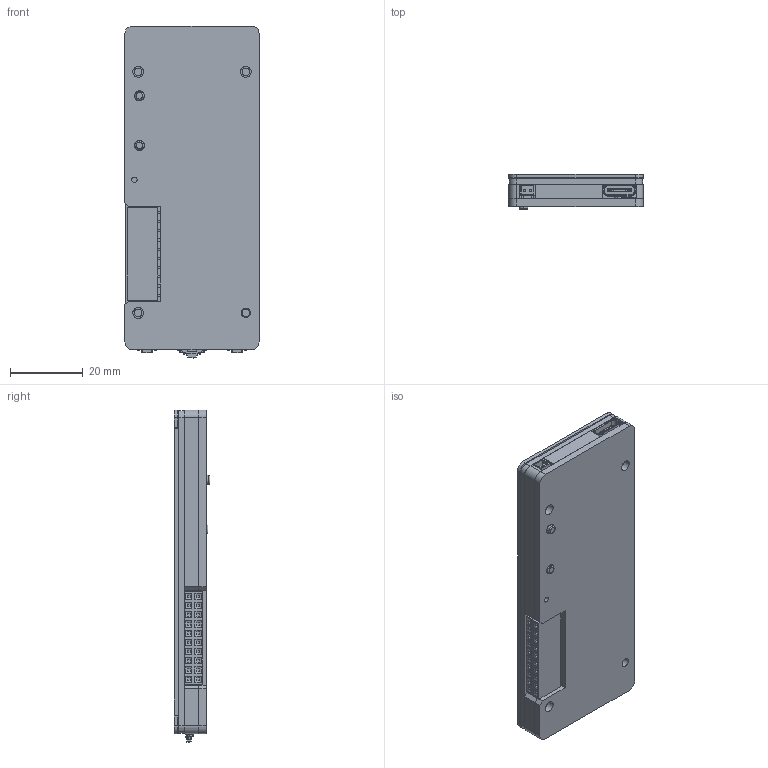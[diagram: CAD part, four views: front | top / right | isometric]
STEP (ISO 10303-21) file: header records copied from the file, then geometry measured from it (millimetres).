
FILE_DESCRIPTION((''),'2;1');
FILE_NAME('00-2-9_VIEW_ASM','2024-11-18T17:21:30',('DNZJ-104'),(''),'CREO PARAMETRIC BY PTC INC, 2022164','CREO PARAMETRIC BY PTC INC, 2022164','');
FILE_SCHEMA(('CONFIG_CONTROL_DESIGN'));
Products named in the file (58): 2_9-LCD; 2_9-LCD-B; 3_7_PCB; XB-TM-2024A; BREP_61; BREP_62; BREP_63; KEY-579_ASM; TF; BREP_71; BOSS-EXTRUDE7_4__1_1; BOSS-EXTRUDE7_5__1_1; BOSS-EXTRUDE7_8__1_1; BOSS-EXTRUDE7_3__1_1; BOSS-EXTRUDE7_7__1_1; BOSS-EXTRUDE14_4__1_1; BOSS-EXTRUDE14_2__1_1; BOSS-EXTRUDE14_8__1_1; BOSS-EXTRUDE14_5__1_1; BOSS-EXTRUDE7_6__1_1; CHAMFER9_1_1; CUT-EXTRUDE5_1_1; MIRROR2_1_1; BOSS-EXTRUDE7_1__1_1; BOSS-EXTRUDE14_10__1_1; BOSS-EXTRUDE14_11__1_1; BOSS-EXTRUDE14_9__1_1; BOSS-EXTRUDE14_6__1_1; BOSS-EXTRUDE14_12__1_1; BOSS-EXTRUDE14_3__1_1; BOSS-EXTRUDE14_7__1_1; BOSS-EXTRUDE7_9__1_1; BOSS-EXTRUDE7_2__1_1; NONE_1_1_1; 9899277F-4995-40C0-B099-C6A92_1_ASM; TYPE_C_PORT_SMD_TYPE__ASM_2_1_ASM; BREP_77; BODY1_1_3_1; BODY2_1_1_1; BODY3_1_1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
Assembly tree (62 placements, depth 4):
  00-2-9_VIEW_ASM
    2_9-LCD
    2_9-LCD-B
    3_7_PCB
    XB-TM-2024A
    KEY-579_ASM  x2
      BREP_61
      BREP_62
      BREP_63
    TF
    BREP_71
    TYPE_C_PORT_SMD_TYPE__ASM_2_1_ASM
      9899277F-4995-40C0-B099-C6A92_1_ASM
        BOSS-EXTRUDE7_4__1_1
        BOSS-EXTRUDE7_5__1_1
        BOSS-EXTRUDE7_8__1_1
        BOSS-EXTRUDE7_3__1_1
        BOSS-EXTRUDE7_7__1_1
        BOSS-EXTRUDE14_4__1_1
        BOSS-EXTRUDE14_2__1_1
        BOSS-EXTRUDE14_8__1_1
        BOSS-EXTRUDE14_5__1_1
        BOSS-EXTRUDE7_6__1_1
        CHAMFER9_1_1
        CUT-EXTRUDE5_1_1
        MIRROR2_1_1
        BOSS-EXTRUDE7_1__1_1
        BOSS-EXTRUDE14_10__1_1
        BOSS-EXTRUDE14_11__1_1
        BOSS-EXTRUDE14_9__1_1
        BOSS-EXTRUDE14_6__1_1
        BOSS-EXTRUDE14_12__1_1
        BOSS-EXTRUDE14_3__1_1
        BOSS-EXTRUDE14_7__1_1
        BOSS-EXTRUDE7_9__1_1
        BOSS-EXTRUDE7_2__1_1
        NONE_1_1_1
    BREP_77
    TACT_SWITCH_ASM_2_1_ASM  x2
      BODY1_1_3_1
      BODY2_1_1_1
      BODY3_1_1
      BODY4_1_1
      BODY5_1_1
      BODY6_1_1
      SMT_PIN_2_1_1
      SMT_PIN_4_1_1
      SMT_PIN_1_1_1
      SMT_PIN_3_1_1
    X05A10H24X
    NONE-0531
    M2_5X3_5  x4
    29-MIDDLE-COVER
    29-PCB-CHECK
    29-BOTTOM_COVER
    PLANE-29
    33
    CROWPANEL_ESP32_DISPLAY-2_9_E_I
Bounding box: 37 x 9.8 x 91.59 mm (x, y, z)
Volume: 24513 mm3; surface area: 38079 mm2
Topology: 67 solids, 67 shells, 5035 faces, 14270 edges, 9437 vertices
Faces by surface type: plane 3674, cylinder 1113, torus 129, sphere 54, bspline 31, extrusion 12, revolution 12, cone 10
Entity records: 155108 total; most frequent: CARTESIAN_POINT 30007, ORIENTED_EDGE 26604, DIRECTION 24983, EDGE_CURVE 13302, VECTOR 10813, LINE 10801, VERTEX_POINT 8791, AXIS2_PLACEMENT_3D 7079
